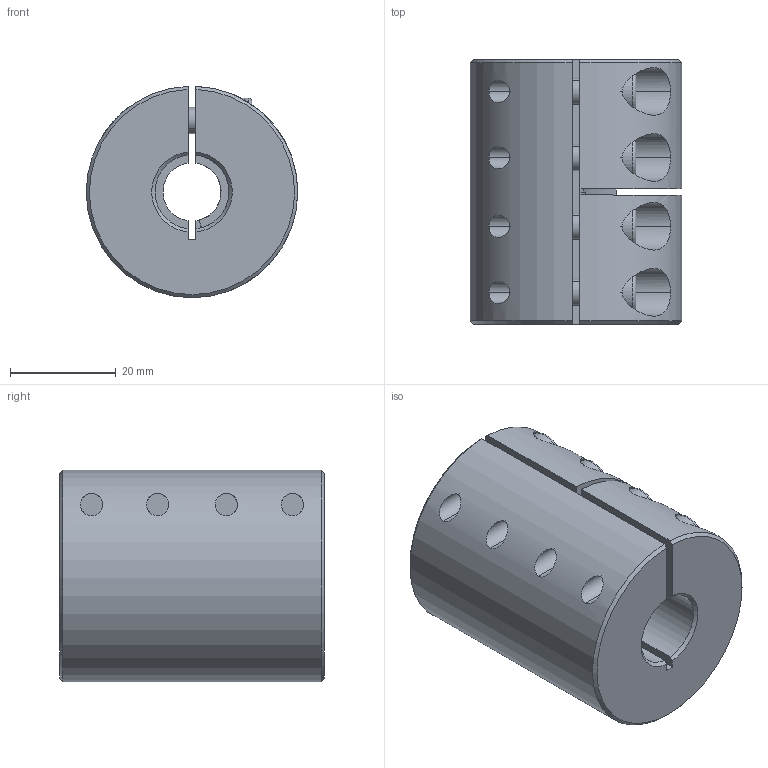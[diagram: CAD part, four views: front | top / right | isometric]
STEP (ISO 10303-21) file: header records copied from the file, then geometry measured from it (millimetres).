
FILE_DESCRIPTION (( 'STEP AP214' ), '1' );
FILE_NAME ('LL-B-D40L50-11-14½¨Ä£.STEP', '2022-07-22T00:19:42', ( '' ), ( '' ), 'SwSTEP 2.0', 'SolidWorks 2022', '' );
FILE_SCHEMA (( 'AUTOMOTIVE_DESIGN' ));
Length unit declared in the file: millimetre
Products named in the file (1): LL-B-D40L50-11-14膘耀
Bounding box: 40 x 50 x 39.99 mm (x, y, z)
Volume: 53296.7 mm3; surface area: 15462.2 mm2
Topology: 1 solids, 1 shells, 182 faces, 463 edges, 291 vertices
Faces by surface type: plane 88, cylinder 71, cone 15, torus 8
Entity records: 6015 total; most frequent: CARTESIAN_POINT 1525, DIRECTION 971, ORIENTED_EDGE 910, EDGE_CURVE 455, AXIS2_PLACEMENT_3D 377, VERTEX_POINT 291, VECTOR 217, LINE 217
